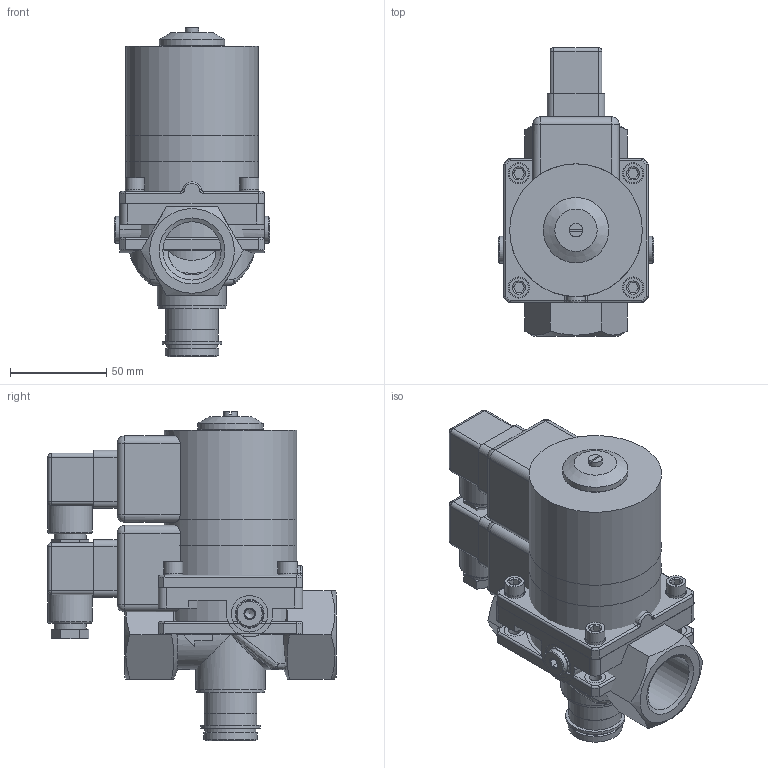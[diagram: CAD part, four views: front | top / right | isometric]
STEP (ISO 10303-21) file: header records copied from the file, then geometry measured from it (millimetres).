
FILE_DESCRIPTION( ( 'Unknown' ), '1' );
FILE_NAME( 'D:/Wyroby/Widoki gabarytowe/Zawory ZEF/ZEF_25/ZEF_25.stp', 'Unknown', ( 'Unknown' ), ( 'Unknown' ), 'XStep 1.0', 'Unknown', ' ' );
FILE_SCHEMA( ( 'CONFIG_CONTROL_DESIGN' ) );
Length unit declared in the file: millimetre
Products named in the file (39): Wb_120_01_03; Wc_120_01_00; Wa_007_01_02; Assem1; Wa_007_01_02_003k1; Wa_007_01_02_002k1; Wa_007_01_02_001k1; Wa_120_01_02_004zaci從i黎a; Wb_120_01_03_002; Wa_120_01_02_008; Wa_120_01_02_007; Wa_145_01_00_009; Wb_120_01_03_005; Wb_120_01_03_001; Wa_007_01_00_006; K-006got.; Wb_120_01_03_003; Wa_120_01_02_005; Wb_120_01_03_004zci從i黎y; Wa_136_01_01; Wa_031_01_00_011; Wa_031_01_00_009; Wb_120_01_02; Œ-008ImbusM6x16; Wa_007_01_00_002; Wa_007_01_00_003彡i從i黎a14; Wa_007_01_00_007; W-008 wkrêt m4x12; podk³adka_sprê¿_zwyk³a_6; Wa_002_01_00_005; Cewka_25
Bounding box: 81 x 150 x 171.3 mm (x, y, z)
Volume: 1296013.4 mm3; surface area: 452925.8 mm2
Topology: 121 solids, 121 shells, 1950 faces, 4146 edges, 2608 vertices
Faces by surface type: plane 917, cylinder 614, cone 259, torus 95, sphere 32, bspline 24, extrusion 9
Full cylindrical faces by diameter (mm): 1.5 x7, 1.6 x4, 2 x12, 2.1 x4, 2.5 x3, 3 x7, 3.242 x4, 4 x18, 4.1 x6, 4.2 x3, 4.5 x4, 4.917 x12, 6 x12, 6.1 x12, 6.2 x12, 6.917 x4, 7 x3, 8 x8, 8.2 x4, 8.5 x4, 8.566 x6, 9.9 x12, 10 x20, 10.5 x12, 11 x12, 12 x14, 13.2 x4, 13.5 x4, 14 x6, 15 x6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
Entity records: 19843 total; most frequent: CARTESIAN_POINT 5964, DIRECTION 2648, ORIENTED_EDGE 1992, AXIS2_PLACEMENT_3D 1147, EDGE_CURVE 996, EDGE_LOOP 981, FACE_OUTER_BOUND 767, VERTEX_POINT 763
